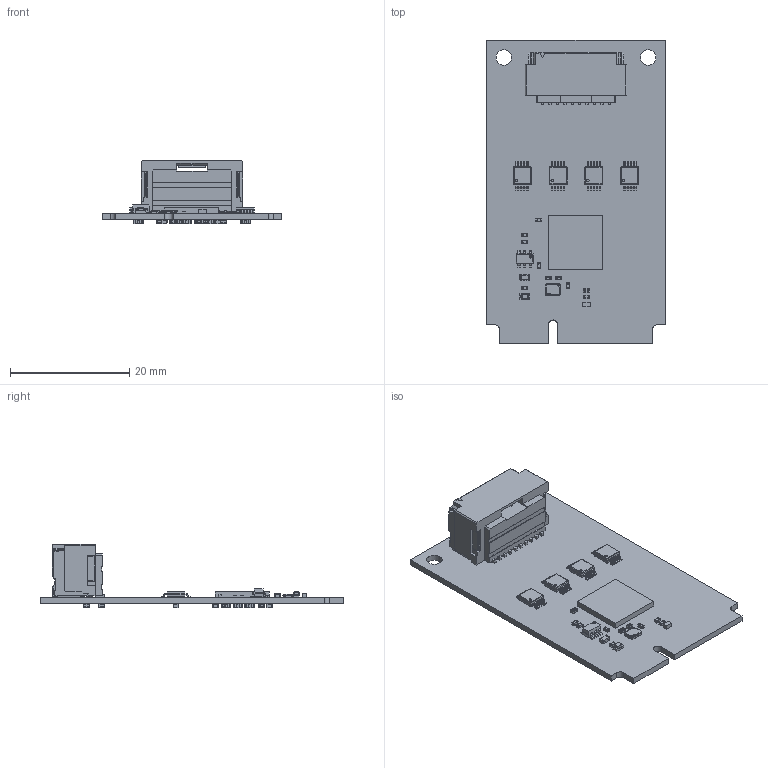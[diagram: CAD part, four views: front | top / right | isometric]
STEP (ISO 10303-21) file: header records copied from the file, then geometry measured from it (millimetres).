
FILE_DESCRIPTION(('Open CASCADE Model'),'2;1');
FILE_NAME('Open CASCADE Shape Model','2022-02-08T13:26:49',('Author'),( 'Open CASCADE'),'Open CASCADE STEP processor 6.8','Open CASCADE 6.8' ,'Unknown');
FILE_SCHEMA(('AUTOMOTIVE_DESIGN { 1 0 10303 214 1 1 1 1 }'));
Products named in the file (1): PCB
Bounding box: 30 x 50.95 x 10.7 mm (x, y, z)
Volume: 2443.5 mm3; surface area: 5028.1 mm2
Topology: 87 solids, 759 shells, 3625 faces, 11178 edges, 8440 vertices
Faces by surface type: plane 2263, cylinder 1066, bspline 204, sphere 58, cone 22, torus 12
Full cylindrical faces by diameter (mm): 0.135 x1, 2.6 x2
Entity records: 131365 total; most frequent: CARTESIAN_POINT 30456, DIRECTION 18509, ORIENTED_EDGE 18082, EDGE_CURVE 10766, VERTEX_POINT 7992, LINE 7513, VECTOR 7513, AXIS2_PLACEMENT_3D 5498
